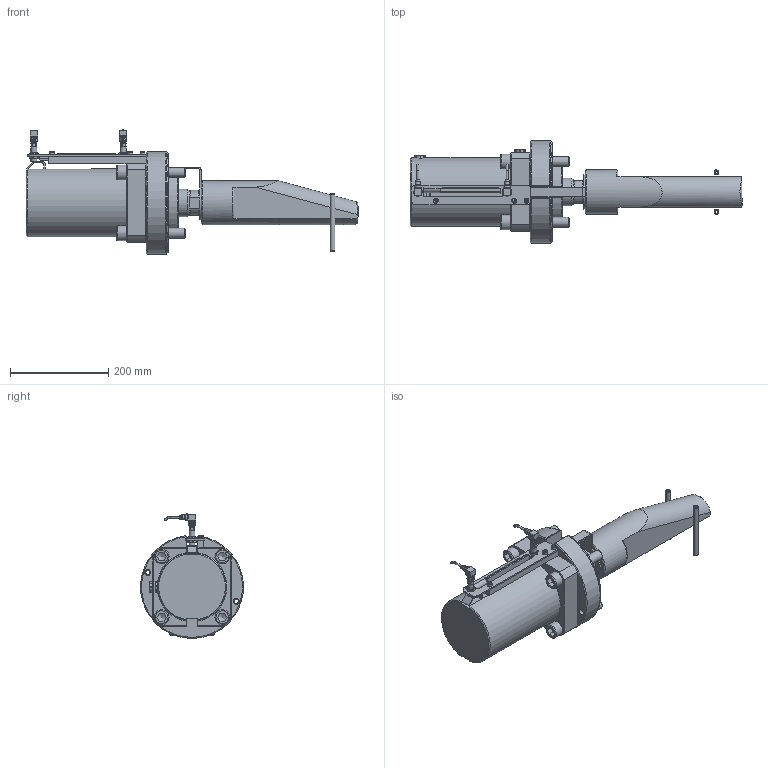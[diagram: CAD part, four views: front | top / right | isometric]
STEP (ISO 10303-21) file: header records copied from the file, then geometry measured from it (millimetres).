
FILE_DESCRIPTION(/* description */ (''),/* implementation_level */ '2;1');
FILE_NAME(/* name */ 'Z:\Standard products\1. QMC Clamping Systems\6. HECS - Integrated Wedge Clamp\HECS-120\HECS120 (15-12-17).stp',/* time_stamp */ '2017-12-15T15:07:38+01:00',/* author */ ('breep'),/* organization */ (''),/* preprocessor_version */ 'ST-DEVELOPER v16.1',/* originating_system */ 'Autodesk Inventor 2016',/* authorisation */ '');
FILE_SCHEMA (('AUTOMOTIVE_DESIGN { 1 0 10303 214 3 1 1 }'));
Length unit declared in the file: millimetre
Products named in the file (1): Part3
Bounding box: 677.04 x 209.49 x 253.57 mm (x, y, z)
Volume: 6919817.2 mm3; surface area: 663803.3 mm2
Topology: 3 solids, 24 shells, 917 faces, 2194 edges, 1374 vertices
Faces by surface type: plane 366, cylinder 289, cone 126, torus 97, bspline 23, sphere 16
Full cylindrical faces by diameter (mm): 0.5 x14, 2.179 x8, 4 x2, 4.917 x6, 6 x6, 6.5 x2, 7 x3, 8.376 x2, 10 x4, 10.385 x2, 10.917 x2, 11 x2, 11.6 x2, 12 x8, 12.2 x2, 14 x2, 14.95 x2, 20 x4, 21.5 x4, 29 x1, 30 x4, 39.7 x1, 40.376 x2, 44.975 x1, 45 x1, 45.2 x1, 55.37 x1, 55.97 x1, 56.5 x4, 58.794 x2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
Entity records: 27606 total; most frequent: CARTESIAN_POINT 7147, DIRECTION 4079, ORIENTED_EDGE 3598, EDGE_CURVE 1794, AXIS2_PLACEMENT_3D 1657, EDGE_LOOP 1340, VERTEX_POINT 1290, STYLED_ITEM 920
